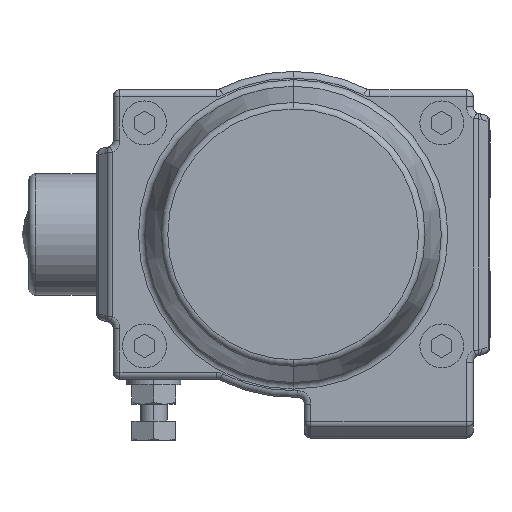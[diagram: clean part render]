
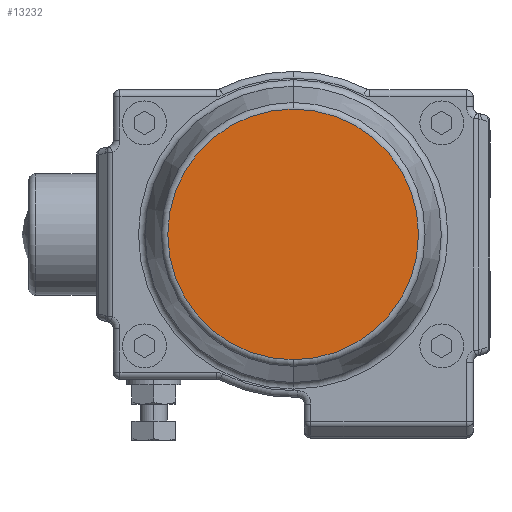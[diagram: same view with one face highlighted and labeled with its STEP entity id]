
A CAD part, left-side view. The second image highlights one B-rep face of the part: STEP entity #13232.
In plain terms, the highlighted planar face has unit normal (-1, 0, 0).
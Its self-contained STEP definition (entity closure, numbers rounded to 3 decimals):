
#860 = EDGE_CURVE ( 'NONE', #9373, #7210, #12792, .T. ) ;
#1129 = DIRECTION ( 'NONE',  ( 0., 0., 1. ) ) ;
#2719 = AXIS2_PLACEMENT_3D ( 'NONE', #15058, #4854, #1129 ) ;
#2966 = DIRECTION ( 'NONE',  ( -1., 0., 0. ) ) ;
#4314 = DIRECTION ( 'NONE',  ( 0., 0., 1. ) ) ;
#4854 = DIRECTION ( 'NONE',  ( -1., 0., 0. ) ) ;
#4878 = ORIENTED_EDGE ( 'NONE', *, *, #10456, .T. ) ;
#5024 = PLANE ( 'NONE',  #2719 ) ;
#5069 = CARTESIAN_POINT ( 'NONE',  ( -131., 0., 0. ) ) ;
#7210 = VERTEX_POINT ( 'NONE', #14774 ) ;
#7689 = CIRCLE ( 'NONE', #14700, 37.099 ) ;
#8510 = FACE_OUTER_BOUND ( 'NONE', #15848, .T. ) ;
#9373 = VERTEX_POINT ( 'NONE', #14584 ) ;
#10175 = ORIENTED_EDGE ( 'NONE', *, *, #860, .T. ) ;
#10456 = EDGE_CURVE ( 'NONE', #7210, #9373, #7689, .T. ) ;
#10929 = AXIS2_PLACEMENT_3D ( 'NONE', #12053, #2966, #4314 ) ;
#12053 = CARTESIAN_POINT ( 'NONE',  ( -131., 0., 0. ) ) ;
#12792 = CIRCLE ( 'NONE', #10929, 37.099 ) ;
#13232 = ADVANCED_FACE ( 'NONE', ( #8510 ), #5024, .T. ) ;
#14091 = DIRECTION ( 'NONE',  ( -1., 0., 0. ) ) ;
#14584 = CARTESIAN_POINT ( 'NONE',  ( -131., 0., -37.099 ) ) ;
#14700 = AXIS2_PLACEMENT_3D ( 'NONE', #5069, #14091, #16746 ) ;
#14774 = CARTESIAN_POINT ( 'NONE',  ( -131., 0., 37.099 ) ) ;
#15058 = CARTESIAN_POINT ( 'NONE',  ( -131., 0., 0. ) ) ;
#15848 = EDGE_LOOP ( 'NONE', ( #4878, #10175 ) ) ;
#16746 = DIRECTION ( 'NONE',  ( 0., 0., 1. ) ) ;
